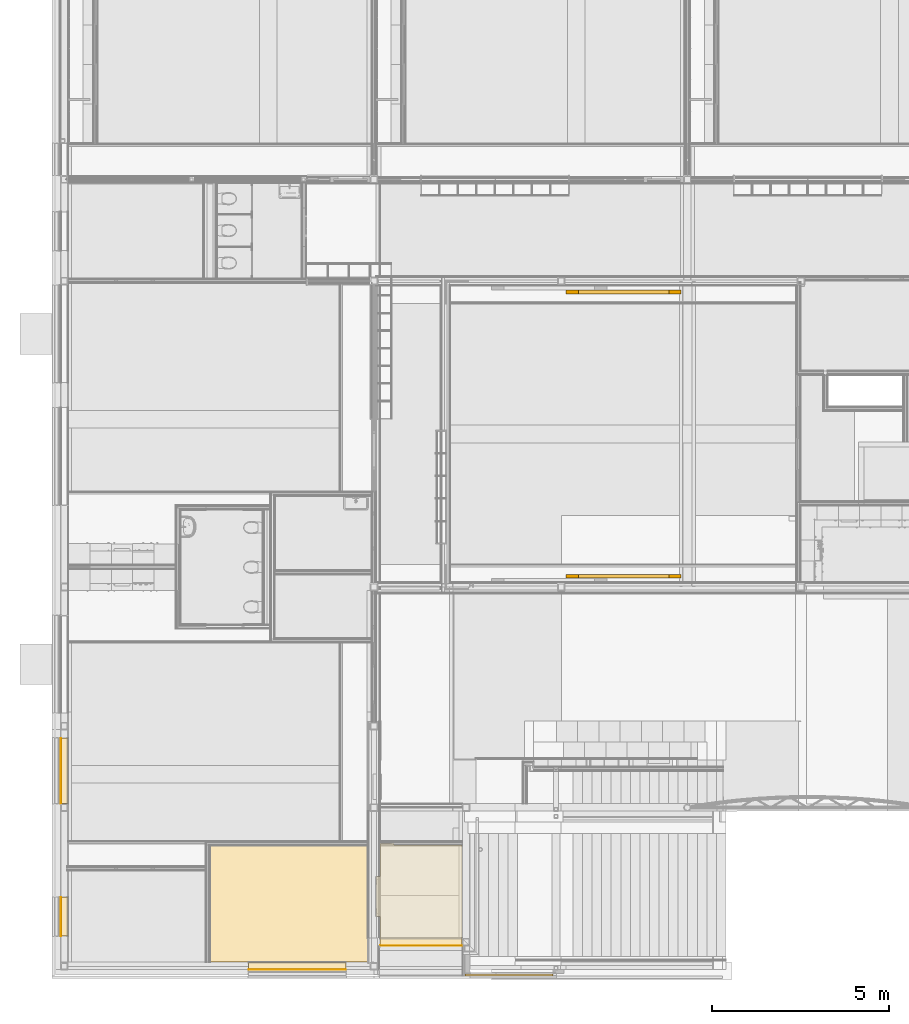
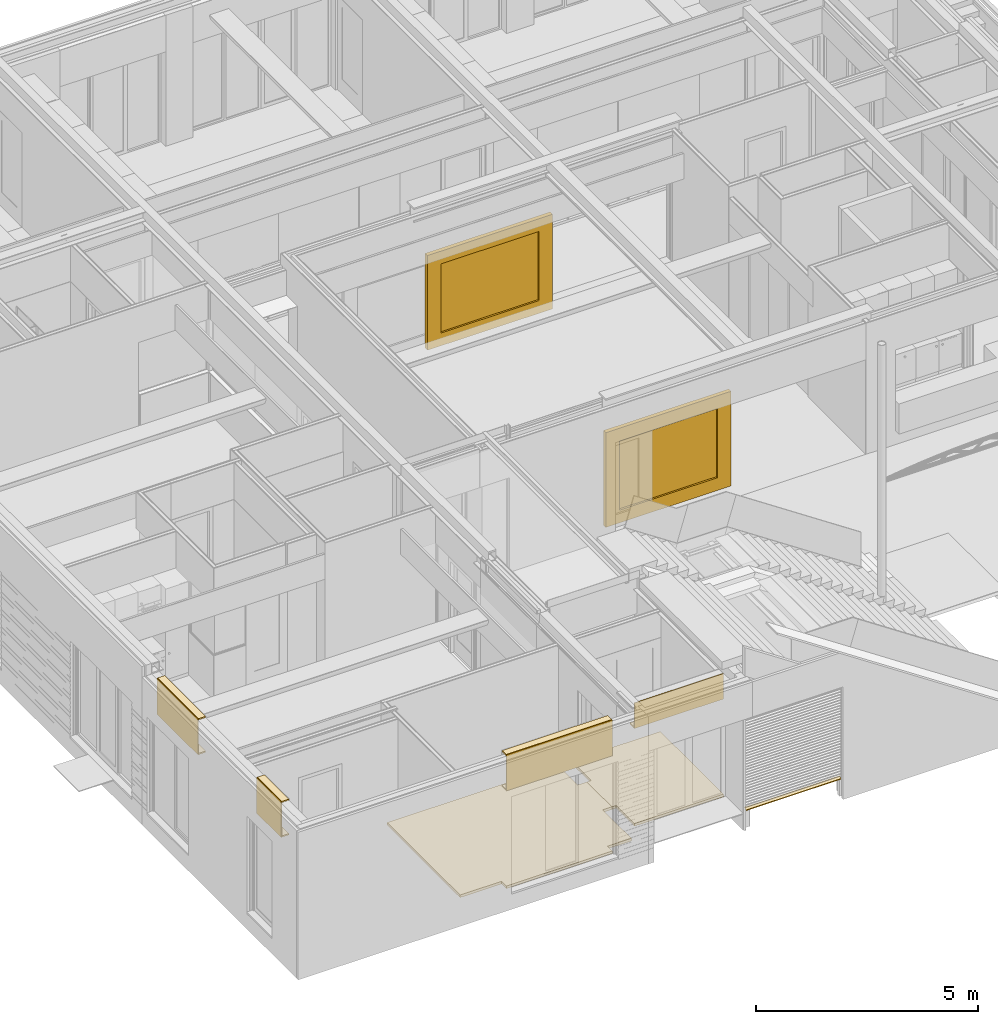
# One storey, part 101 of 165: 14 coverings, 2 doors, 7 elements without a shape of their own.
"""IFC2X3 building model written with IfcOpenShell, lengths in millimetres."""

from ifc_helpers import new_model, entity, si_unit, converted_unit, derived_unit, money_unit, direction, frame, origin_with_axes, place, context, subcontext, project, spatial, open_shell, faceted_brep, surface_model, material, type_object, element, aggregate, save


model = new_model("IFC2X3")

# Units and contexts
model_context = context("Model", 3, precision=0.01, world=origin_with_axes(), true_north=direction((0.0, 1.0)))
body_context = subcontext(model_context, "Body", "Model", "MODEL_VIEW")
ifc_project = project(units=[si_unit("LENGTHUNIT", "METRE", prefix="MILLI"), si_unit("AREAUNIT", "SQUARE_METRE"), si_unit("VOLUMEUNIT", "CUBIC_METRE"), converted_unit("PLANEANGLEUNIT", "DEGREE", entity("IfcPlaneAngleMeasure", 0.0174532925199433), si_unit("PLANEANGLEUNIT", "RADIAN"), dimensions=[0, 0, 0, 0, 0, 0, 0]), money_unit("EUR"), converted_unit("TIMEUNIT", "Year", entity("IfcTimeMeasure", 31556926.0), si_unit("TIMEUNIT", "SECOND"), dimensions=[0, 0, 1, 0, 0, 0, 0]), si_unit("MASSUNIT", "GRAM", prefix="KILO"), si_unit("THERMODYNAMICTEMPERATUREUNIT", "DEGREE_CELSIUS"), si_unit("LUMINOUSINTENSITYUNIT", "LUMEN"), si_unit("ENERGYUNIT", "JOULE", prefix="MEGA"), derived_unit("THERMALCONDUCTANCEUNIT", [(si_unit("POWERUNIT", "WATT"), 1), (si_unit("LENGTHUNIT", "METRE"), -1), (si_unit("THERMODYNAMICTEMPERATUREUNIT", "KELVIN"), -1)]), derived_unit("SPECIFICHEATCAPACITYUNIT", [(si_unit("ENERGYUNIT", "JOULE"), 1), (si_unit("MASSUNIT", "GRAM", prefix="KILO"), -1), (si_unit("THERMODYNAMICTEMPERATUREUNIT", "KELVIN"), -1)]), derived_unit("MASSDENSITYUNIT", [(si_unit("MASSUNIT", "GRAM", prefix="KILO"), 1), (si_unit("VOLUMEUNIT", "CUBIC_METRE"), -1)])], contexts=[model_context])

# Site, building, storey
site_placement = place(None, origin_with_axes())
site = spatial("IfcSite", under=ifc_project, at=site_placement, Name="Site", CompositionType="ELEMENT")
building_placement = place(site_placement, origin_with_axes())
building = spatial("IfcBuilding", under=site, at=building_placement, Name="Naam gebouw", CompositionType="ELEMENT")
storey_placement = place(building_placement, origin_with_axes())
storey = spatial("IfcBuildingStorey", under=building, at=storey_placement, Name="Begane grond", CompositionType="ELEMENT", Elevation=0.0)

# Doors
door_style_1 = type_object("IfcDoorStyle", Name="DS1 voor wand 26", ConstructionType="NOTDEFINED", OperationType="SLIDING_TO_RIGHT", ParameterTakesPrecedence=False, Sizeable=False)
door_1_placement = place(storey_placement, frame((20775.00168581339, 19325.00039292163, 0.0), z_axis=(0.0, 0.0, 1.0), x_axis=(-0.999999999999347, 1.142919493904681e-06, 0.0)))
element("IfcDoor", 1, at=door_1_placement, inside=storey, type_object=door_style_1, Name="_04.01", ObjectType="DOOR", OverallHeight=2600.0, OverallWidth=3250.0, context=body_context, shape_type="SurfaceModel", body=[
    faceted_brep([(6500.000000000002, 234.9999999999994, 350.0), (6500.000000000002, 129.999999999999, 350.0), (6150.0, 129.999999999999, 350.0), (6150.0, 234.9999999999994, 350.0), (6500.000000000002, 234.9999999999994, 2250.0), (6500.000000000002, 129.999999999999, 2250.0), (6150.0, 129.999999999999, 2250.0), (6150.0, 234.9999999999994, 2250.0)], [[[0, 1, 2, 3]], [[4, 5, 1, 0]], [[1, 5, 6, 2]], [[3, 2, 6, 7]], [[0, 3, 7, 4]], [[7, 6, 5, 4]]]),
    faceted_brep([(3250.0, 234.9999999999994, 350.0), (3250.0, 129.999999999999, 350.0), (3250.0, 129.999999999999, 2250.0), (3250.0, 234.9999999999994, 2250.0), (3600.000000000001, 234.9999999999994, 350.0), (3600.000000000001, 129.999999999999, 350.0), (3600.000000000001, 129.999999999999, 2250.0), (3600.000000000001, 234.9999999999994, 2250.0)], [[[0, 1, 2, 3]], [[4, 5, 1, 0]], [[1, 5, 6, 2]], [[3, 2, 6, 7]], [[0, 3, 7, 4]], [[7, 6, 5, 4]]]),
    faceted_brep([(6500.000000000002, 234.9999999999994, 0.0), (6500.000000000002, 129.999999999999, 0.0), (3250.0, 129.999999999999, 0.0), (3250.0, 234.9999999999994, 0.0), (6500.000000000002, 234.9999999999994, 350.0), (6500.000000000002, 129.999999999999, 350.0), (6150.0, 129.999999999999, 350.0), (3600.000000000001, 129.999999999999, 350.0), (3250.0, 129.999999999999, 350.0), (3250.0, 234.9999999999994, 350.0), (3600.000000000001, 234.9999999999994, 350.0), (6150.0, 234.9999999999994, 350.0)], [[[0, 1, 2, 3]], [[4, 5, 1, 0]], [[1, 5, 6, 7, 8, 2]], [[3, 2, 8, 9]], [[0, 3, 9, 10, 11, 4]], [[11, 6, 5, 4]], [[10, 7, 6, 11]], [[9, 8, 7, 10]]]),
    faceted_brep([(6500.000000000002, 234.9999999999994, 2600.0), (6500.000000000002, 129.999999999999, 2600.0), (6500.000000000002, 129.999999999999, 2250.0), (6500.000000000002, 234.9999999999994, 2250.0), (3250.0, 234.9999999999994, 2600.0), (3250.0, 129.999999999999, 2600.0), (3250.0, 129.999999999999, 2250.0), (3600.000000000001, 129.999999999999, 2250.0), (6150.0, 129.999999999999, 2250.0), (6150.0, 234.9999999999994, 2250.0), (3600.000000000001, 234.9999999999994, 2250.0), (3250.0, 234.9999999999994, 2250.0)], [[[0, 1, 2, 3]], [[4, 5, 1, 0]], [[1, 5, 6, 7, 8, 2]], [[3, 2, 8, 9]], [[0, 3, 9, 10, 11, 4]], [[11, 6, 5, 4]], [[10, 7, 6, 11]], [[9, 8, 7, 10]]]),
    surface_model("IfcShellBasedSurfaceModel", [(6150.0, 188.5000000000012, 350.0), (3600.000000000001, 188.5000000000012, 350.0), (3600.000000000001, 188.5000000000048, 2250.0), (6150.0, 188.5000000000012, 2250.0)], [open_shell([[[0, 1, 2, 3]]])]),
    surface_model("IfcShellBasedSurfaceModel", [(6150.0, 176.5000000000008, 350.0), (6150.0, 176.5000000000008, 2250.0), (3600.000000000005, 176.5000000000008, 2250.0), (3600.000000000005, 176.5000000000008, 350.0)], [open_shell([[[0, 1, 2, 3]]])]),
])
door_style_2 = type_object("IfcDoorStyle", Name="DS1 voor wand 26", ConstructionType="NOTDEFINED", OperationType="SLIDING_TO_LEFT", ParameterTakesPrecedence=False, Sizeable=False)
door_2_placement = place(storey_placement, frame((17525.00168581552, 10934.99510223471, 0.0), z_axis=(0.0, 0.0, 1.0), x_axis=(0.999999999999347, 1.142919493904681e-06, 0.0)))
element("IfcDoor", 2, at=door_2_placement, inside=storey, type_object=door_style_2, Name="_04.02", ObjectType="DOOR", OverallHeight=2600.0, OverallWidth=3250.0, context=body_context, shape_type="SurfaceModel", body=[
    faceted_brep([(-3250.000000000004, 234.9999999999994, 350.0), (-2900.000000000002, 234.9999999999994, 350.0), (-2900.000000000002, 130.0000000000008, 350.0), (-3250.000000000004, 130.0000000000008, 350.0), (-3250.000000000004, 234.9999999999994, 2250.0), (-2900.000000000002, 234.9999999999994, 2250.0), (-2900.000000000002, 130.0000000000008, 2250.0), (-3250.000000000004, 130.0000000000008, 2250.0)], [[[0, 1, 2, 3]], [[0, 4, 5, 1]], [[1, 5, 6, 2]], [[3, 2, 6, 7]], [[4, 0, 3, 7]], [[5, 4, 7, 6]]]),
    faceted_brep([(0.0, 234.9999999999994, 350.0), (0.0, 234.9999999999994, 2250.0), (0.0, 129.999999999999, 2250.0), (0.0, 130.0000000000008, 350.0), (-350.000000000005, 234.9999999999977, 350.0), (-350.000000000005, 234.9999999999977, 2250.0), (-350.000000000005, 129.999999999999, 2250.0), (-350.000000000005, 129.999999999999, 350.0)], [[[0, 1, 2, 3]], [[0, 4, 5, 1]], [[1, 5, 6, 2]], [[3, 2, 6, 7]], [[4, 0, 3, 7]], [[5, 4, 7, 6]]]),
    faceted_brep([(-3250.000000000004, 234.9999999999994, 0.0), (0.0, 234.9999999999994, 0.0), (0.0, 130.0000000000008, 0.0), (-3250.000000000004, 130.0000000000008, 0.0), (-3250.000000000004, 234.9999999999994, 350.0), (-2900.000000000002, 234.9999999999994, 350.0), (-350.000000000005, 234.9999999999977, 350.0), (0.0, 234.9999999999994, 350.0), (0.0, 130.0000000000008, 350.0), (-350.000000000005, 129.999999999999, 350.0), (-2900.000000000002, 130.0000000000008, 350.0), (-3250.000000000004, 130.0000000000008, 350.0)], [[[0, 1, 2, 3]], [[0, 4, 5, 6, 7, 1]], [[1, 7, 8, 2]], [[3, 2, 8, 9, 10, 11]], [[4, 0, 3, 11]], [[5, 4, 11, 10]], [[6, 5, 10, 9]], [[7, 6, 9, 8]]]),
    faceted_brep([(-3250.000000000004, 234.9999999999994, 2600.0), (-3250.000000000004, 234.9999999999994, 2250.0), (-3250.000000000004, 130.0000000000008, 2250.0), (-3250.000000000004, 130.0000000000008, 2600.0), (0.0, 234.9999999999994, 2600.0), (0.0, 234.9999999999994, 2250.0), (-350.000000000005, 234.9999999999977, 2250.0), (-2900.000000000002, 234.9999999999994, 2250.0), (-2900.000000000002, 130.0000000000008, 2250.0), (-350.000000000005, 129.999999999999, 2250.0), (0.0, 129.999999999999, 2250.0), (0.0, 129.999999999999, 2600.0)], [[[0, 1, 2, 3]], [[0, 4, 5, 6, 7, 1]], [[1, 7, 8, 2]], [[3, 2, 8, 9, 10, 11]], [[4, 0, 3, 11]], [[5, 4, 11, 10]], [[6, 5, 10, 9]], [[7, 6, 9, 8]]]),
    surface_model("IfcShellBasedSurfaceModel", [(-2900.000000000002, 188.5000000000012, 350.0), (-2900.000000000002, 188.4999999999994, 2250.0), (-350.0000000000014, 188.4999999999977, 2250.0), (-350.0000000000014, 188.4999999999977, 350.0)], [open_shell([[[0, 1, 2, 3]]])]),
    surface_model("IfcShellBasedSurfaceModel", [(-2900.000000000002, 176.5000000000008, 350.0), (-350.000000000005, 176.499999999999, 350.0), (-350.000000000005, 176.499999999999, 2250.0), (-2900.000000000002, 176.5000000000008, 2250.0)], [open_shell([[[0, 1, 2, 3]]])]),
])

# Slab, covering
slab_type = type_object("IfcSlabType", Name="43 Zwevende dekvloer 100", PredefinedType="NOTDEFINED")
slab_1_placement = place(storey_placement, frame((8675.000006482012, 3499.995697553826, 0.0), z_axis=(0.0, 0.0, 1.0), x_axis=(1.0, 0.0, 0.0)))
slab_1 = element("IfcSlab", 3, at=slab_1_placement, inside=storey, type_object=slab_type, Name="_Vloer-x", PredefinedType="NOTDEFINED")
ifc_material_1 = material(Name="Cement - dekvloer")
covering_1_placement = place(slab_1_placement, origin_with_axes())
covering_1 = element("IfcCovering", 4, at=covering_1_placement, material=ifc_material_1, Name="Cement - dekvloer", PredefinedType="FLOORING", context=body_context, shape_type="Brep", body=[
    faceted_brep([(-4450.000006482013, 0.0, -70.0), (-4450.000006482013, 0.0, 0.0), (0.0, 0.0, 0.0), (0.0, 0.0, -70.0), (-4450.000006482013, -3285.995698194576, -70.0), (-4450.000006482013, -3285.995698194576, 0.0), (-3369.000006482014, -3285.995698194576, 0.0), (-3369.000006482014, -3499.995697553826, 0.0), (-619.0000064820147, -3499.995697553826, 0.0), (-619.0000064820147, -3285.995698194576, 0.0), (0.0, -3285.995698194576, 0.0), (0.0, -1996.778544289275, 0.0), (237.9999935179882, -1996.778544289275, 0.0), (237.9999935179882, -866.7784783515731, 0.0), (0.0, -866.7784783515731, 0.0), (0.0, -866.7784783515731, -70.0), (237.9999935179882, -866.7784783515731, -70.0), (237.9999935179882, -1996.778544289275, -70.0), (0.0, -1996.778544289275, -70.0), (0.0, -3285.995698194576, -70.0), (-619.0000064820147, -3285.995698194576, -70.0), (-619.0000064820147, -3499.995697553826, -70.0), (-3369.000006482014, -3499.995697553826, -70.0), (-3369.000006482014, -3285.995698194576, -70.0)], [[[0, 1, 2, 3]], [[4, 5, 1, 0]], [[2, 1, 5, 6, 7, 8, 9, 10, 11, 12, 13, 14]], [[3, 2, 14, 15]], [[3, 15, 16, 17, 18, 19, 20, 21, 22, 23, 4, 0]], [[23, 6, 5, 4]], [[22, 7, 6, 23]], [[21, 8, 7, 22]], [[20, 9, 8, 21]], [[19, 10, 9, 20]], [[18, 11, 10, 19]], [[17, 12, 11, 18]], [[16, 13, 12, 17]], [[15, 14, 13, 16]]]),
])
aggregate(slab_1, [covering_1])

slab_2_placement = place(storey_placement, frame((9025.000021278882, 2633.217219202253, 0.0), z_axis=(0.0, 0.0, 1.0), x_axis=(1.0, 0.0, 0.0)))
slab_2 = element("IfcSlab", 5, at=slab_2_placement, inside=storey, type_object=slab_type, Name="_Vloer-x", PredefinedType="NOTDEFINED")
covering_2_placement = place(slab_2_placement, origin_with_axes())
covering_2 = element("IfcCovering", 6, at=covering_2_placement, material=ifc_material_1, Name="Cement - dekvloer", PredefinedType="FLOORING", context=body_context, shape_type="Brep", body=[
    faceted_brep([(-112.000021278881, 0.0, -70.0), (-112.000021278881, 0.0, 0.0), (0.0, 0.0, 0.0), (0.0, 0.0, -70.0), (-112.000021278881, -1130.000065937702, -70.0), (-112.000021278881, -1130.000065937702, 0.0), (0.0, -1130.000065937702, 0.0), (0.0, -1953.217247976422, 0.0), (2310.999978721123, -1953.217247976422, 0.0), (2310.999978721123, 886.778536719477, 0.0), (390.9999914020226, 886.778536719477, 0.0), (390.9999914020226, 931.7784826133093, 0.0), (0.0, 931.7784826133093, 0.0), (0.0, 931.7784826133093, -70.0), (390.9999914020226, 931.7784826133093, -70.0), (390.9999914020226, 886.778536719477, -70.0), (2310.999978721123, 886.778536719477, -70.0), (2310.999978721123, -1953.217247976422, -70.0), (0.0, -1953.217247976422, -70.0), (0.0, -1130.000065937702, -70.0)], [[[0, 1, 2, 3]], [[4, 5, 1, 0]], [[2, 1, 5, 6, 7, 8, 9, 10, 11, 12]], [[3, 2, 12, 13]], [[3, 13, 14, 15, 16, 17, 18, 19, 4, 0]], [[19, 6, 5, 4]], [[18, 7, 6, 19]], [[17, 8, 7, 18]], [[16, 9, 8, 17]], [[15, 10, 9, 16]], [[14, 11, 10, 15]], [[13, 12, 11, 14]]]),
])
aggregate(slab_2, [covering_2])

# Beam, covering
beam_type_1 = type_object("IfcBeamType", Name="30 Duco Louvre deur 55 x 2627", PredefinedType="BEAM")
beam_1_placement = place(storey_placement, frame((13900.0, -116.9904125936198, 0.0), z_axis=(0.0, 0.0, 1.0), x_axis=(0.0, 1.0, 0.0)))
beam_1 = element("IfcBeam", 7, at=beam_1_placement, inside=storey, type_object=beam_type_1, Name="_Regenwaterafvoer-x", ObjectType="BEAM")
ifc_material_2 = material(Name="Metaal - Aluminium")
covering_3_placement = place(beam_1_placement, origin_with_axes())
covering_3 = element("IfcCovering", 8, at=covering_3_placement, material=ifc_material_2, Name="Metaal - Aluminium", PredefinedType="NOTDEFINED", context=body_context, shape_type="Brep", body=[
    faceted_brep([(-4.027927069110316, 2473.999999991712, 83.69950189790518), (-56.57357643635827, 2473.999999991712, 46.90664211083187), (-56.57357643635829, 0.0, 46.90664211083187), (-4.027927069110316, 0.0, 83.69950189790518), (-3.90000000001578, 2473.999999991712, 83.9452475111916), (-3.90000000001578, 2473.999999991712, 99.12642859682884), (-3.975892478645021, 2473.999999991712, 99.32586735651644), (-4.165172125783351, 2473.999999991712, 99.42440010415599), (-4.372072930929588, 2473.999999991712, 99.37217421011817), (-5.427927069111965, 2473.999999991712, 98.63285718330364), (-5.634827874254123, 2473.999999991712, 98.58063128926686), (-5.824107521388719, 2473.999999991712, 98.67916403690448), (-5.900000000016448, 2473.999999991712, 98.87860279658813), (-5.900000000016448, 2473.999999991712, 100.4656097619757), (-5.772072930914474, 2473.999999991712, 100.7113553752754), (-2.944145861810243, 2473.999999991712, 102.6914912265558), (-2.530344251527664, 2473.999999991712, 102.7959430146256), (-2.151784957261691, 2473.999999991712, 102.5988775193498), (-2.000000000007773, 2473.999999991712, 102.1999999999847), (-2.000000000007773, 2473.999999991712, 83.3205670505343), (-2.426423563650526, 2473.999999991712, 82.50141500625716), (-26.08018232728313, 2473.999999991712, 65.93887481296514), (-26.40000000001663, 2473.999999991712, 65.32451077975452), (-26.40000000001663, 2473.999999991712, 62.12781745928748), (-26.61966991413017, 2473.999999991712, 61.59748737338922), (-28.05857864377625, 2473.999999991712, 60.15857864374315), (-28.20000000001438, 2473.999999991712, 60.09999999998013), (-28.3414213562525, 2473.999999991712, 60.15857864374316), (-28.40000000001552, 2473.999999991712, 60.29999999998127), (-28.40000000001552, 2473.999999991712, 62.87378439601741), (-28.58973119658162, 2473.999999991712, 63.37238129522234), (-29.06293031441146, 2473.999999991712, 63.61871316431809), (-29.58018232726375, 2473.999999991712, 63.48814842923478), (-30.60000000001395, 2473.999999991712, 62.77406440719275), (-30.60000000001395, 2473.999999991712, 57.59999999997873), (-30.74644660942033, 2473.999999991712, 57.24644660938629), (-31.10000000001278, 2473.999999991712, 57.0999999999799), (-32.10000000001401, 2473.999999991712, 57.0999999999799), (-32.45355339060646, 2473.999999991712, 57.24644660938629), (-32.60000000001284, 2473.999999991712, 57.59999999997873), (-32.60000000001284, 2473.999999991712, 59.93291273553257), (-32.78973119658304, 2473.999999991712, 60.4315096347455), (-33.26293031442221, 2473.999999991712, 60.67784150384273), (-33.780182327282, 2473.999999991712, 60.54727676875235), (-54.97207293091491, 2473.999999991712, 45.70855521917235), (-55.10000000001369, 2473.999999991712, 45.46280960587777), (-55.10000000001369, 2473.999999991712, 29.97357140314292), (-55.02410752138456, 2473.999999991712, 29.77413264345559), (-54.83482787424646, 2473.999999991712, 29.67559989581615), (-54.62792706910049, 2473.999999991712, 29.7278257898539), (-53.572072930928, 2473.999999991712, 30.46714281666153), (-53.36517212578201, 2473.999999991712, 30.51936871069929), (-53.17589247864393, 2473.999999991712, 30.42083596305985), (-53.1000000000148, 2473.999999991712, 30.22139720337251), (-53.1000000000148, 2473.999999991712, 28.6343902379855), (-53.22792706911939, 2473.999999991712, 28.38864462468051), (-56.05585413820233, 2473.999999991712, 26.40850877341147), (-56.46965574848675, 2473.999999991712, 26.30405698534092), (-56.84821504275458, 2473.999999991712, 26.50112248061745), (-57.00000000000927, 2473.999999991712, 26.89999999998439), (-57.00000000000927, 2473.999999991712, 46.08749006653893), (-57.00000000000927, 0.0, 46.08749006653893), (-57.00000000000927, 0.0, 26.89999999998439), (-56.84821504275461, 0.0, 26.50112248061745), (-56.46965574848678, 0.0, 26.30405698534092), (-56.05585413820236, 0.0, 26.40850877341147), (-53.22792706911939, 0.0, 28.38864462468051), (-53.1000000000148, 0.0, 28.6343902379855), (-53.1000000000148, 0.0, 30.22139720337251), (-53.17589247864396, 0.0, 30.42083596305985), (-53.36517212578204, 0.0, 30.51936871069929), (-53.572072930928, 0.0, 30.46714281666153), (-54.62792706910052, 0.0, 29.7278257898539), (-54.83482787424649, 0.0, 29.67559989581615), (-55.02410752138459, 0.0, 29.77413264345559), (-55.10000000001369, 0.0, 29.97357140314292), (-55.10000000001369, 0.0, 45.46280960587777), (-54.97207293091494, 0.0, 45.70855521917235), (-33.78018232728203, 0.0, 60.54727676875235), (-33.26293031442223, 0.0, 60.67784150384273), (-32.78973119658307, 0.0, 60.4315096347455), (-32.60000000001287, 0.0, 59.93291273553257), (-32.60000000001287, 0.0, 57.59999999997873), (-32.45355339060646, 0.0, 57.24644660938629), (-32.10000000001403, 0.0, 57.0999999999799), (-31.10000000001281, 0.0, 57.0999999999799), (-30.74644660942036, 0.0, 57.24644660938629), (-30.60000000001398, 0.0, 57.59999999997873), (-30.60000000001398, 0.0, 62.77406440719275), (-29.58018232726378, 0.0, 63.48814842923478), (-29.06293031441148, 0.0, 63.61871316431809), (-28.58973119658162, 0.0, 63.37238129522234), (-28.40000000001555, 0.0, 62.87378439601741), (-28.40000000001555, 0.0, 60.29999999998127), (-28.3414213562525, 0.0, 60.15857864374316), (-28.20000000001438, 0.0, 60.09999999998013), (-28.05857864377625, 0.0, 60.15857864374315), (-26.6196699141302, 0.0, 61.59748737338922), (-26.40000000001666, 0.0, 62.12781745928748), (-26.40000000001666, 0.0, 65.32451077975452), (-26.08018232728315, 0.0, 65.93887481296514), (-2.426423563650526, 0.0, 82.50141500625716), (-2.000000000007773, 0.0, 83.3205670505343), (-2.000000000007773, 0.0, 102.1999999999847), (-2.151784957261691, 0.0, 102.5988775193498), (-2.530344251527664, 0.0, 102.7959430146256), (-2.944145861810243, 0.0, 102.6914912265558), (-5.772072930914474, 0.0, 100.7113553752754), (-5.900000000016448, 0.0, 100.4656097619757), (-5.900000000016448, 0.0, 98.87860279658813), (-5.824107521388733, 0.0, 98.67916403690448), (-5.634827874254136, 0.0, 98.58063128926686), (-5.427927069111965, 0.0, 98.63285718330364), (-4.372072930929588, 0.0, 99.37217421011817), (-4.165172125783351, 0.0, 99.42440010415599), (-3.975892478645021, 0.0, 99.32586735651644), (-3.90000000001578, 0.0, 99.12642859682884), (-3.90000000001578, 0.0, 83.9452475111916)], [[[0, 1, 2, 3]], [[0, 4, 5, 6, 7, 8, 9, 10, 11, 12, 13, 14, 15, 16, 17, 18, 19, 20, 21, 22, 23, 24, 25, 26, 27, 28, 29, 30, 31, 32, 33, 34, 35, 36, 37, 38, 39, 40, 41, 42, 43, 44, 45, 46, 47, 48, 49, 50, 51, 52, 53, 54, 55, 56, 57, 58, 59, 60, 1]], [[1, 60, 61, 2]], [[3, 2, 61, 62, 63, 64, 65, 66, 67, 68, 69, 70, 71, 72, 73, 74, 75, 76, 77, 78, 79, 80, 81, 82, 83, 84, 85, 86, 87, 88, 89, 90, 91, 92, 93, 94, 95, 96, 97, 98, 99, 100, 101, 102, 103, 104, 105, 106, 107, 108, 109, 110, 111, 112, 113, 114, 115, 116, 117]], [[4, 0, 3, 117]], [[5, 4, 117, 116]], [[6, 5, 116, 115]], [[7, 6, 115, 114]], [[8, 7, 114, 113]], [[9, 8, 113, 112]], [[10, 9, 112, 111]], [[11, 10, 111, 110]], [[12, 11, 110, 109]], [[13, 12, 109, 108]], [[14, 13, 108, 107]], [[15, 14, 107, 106]], [[16, 15, 106, 105]], [[17, 16, 105, 104]], [[18, 17, 104, 103]], [[19, 18, 103, 102]], [[20, 19, 102, 101]], [[21, 20, 101, 100]], [[22, 21, 100, 99]], [[23, 22, 99, 98]], [[24, 23, 98, 97]], [[25, 24, 97, 96]], [[26, 25, 96, 95]], [[27, 26, 95, 94]], [[28, 27, 94, 93]], [[29, 28, 93, 92]], [[30, 29, 92, 91]], [[31, 30, 91, 90]], [[32, 31, 90, 89]], [[33, 32, 89, 88]], [[34, 33, 88, 87]], [[35, 34, 87, 86]], [[36, 35, 86, 85]], [[37, 36, 85, 84]], [[38, 37, 84, 83]], [[39, 38, 83, 82]], [[40, 39, 82, 81]], [[41, 40, 81, 80]], [[42, 41, 80, 79]], [[43, 42, 79, 78]], [[44, 43, 78, 77]], [[45, 44, 77, 76]], [[46, 45, 76, 75]], [[47, 46, 75, 74]], [[48, 47, 74, 73]], [[49, 48, 73, 72]], [[50, 49, 72, 71]], [[51, 50, 71, 70]], [[52, 51, 70, 69]], [[53, 52, 69, 68]], [[54, 53, 68, 67]], [[55, 54, 67, 66]], [[56, 55, 66, 65]], [[57, 56, 65, 64]], [[58, 57, 64, 63]], [[59, 58, 63, 62]], [[60, 59, 62, 61]]]),
])
aggregate(beam_1, [covering_3])

# Beam, coverings
beam_type_2 = type_object("IfcBeamType", Name="31 HSB boven kozijnen 214 x 1000", PredefinedType="BEAM")
beam_2_placement = place(storey_placement, frame((214.0000000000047, 6544.999999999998, 2600.000000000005), z_axis=(0.0, 0.0, 1.0), x_axis=(-1.0, 0.0, 0.0)))
beam_2 = element("IfcBeam", 9, at=beam_2_placement, inside=storey, type_object=beam_type_2, Name="28_Balk-x", ObjectType="BEAM")
ifc_material_3 = material(Name="Hout - Vloer")
covering_4_placement = place(beam_2_placement, origin_with_axes())
covering_4 = element("IfcCovering", 10, at=covering_4_placement, material=ifc_material_3, Name="Hout - Vloer", PredefinedType="NOTDEFINED", context=body_context, shape_type="Brep", body=[
    faceted_brep([(11.99999006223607, 1850.0, 999.9999999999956), (11.99999006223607, 1850.0, 962.0000059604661), (11.99999006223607, 0.0, 962.0000059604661), (11.99999006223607, 0.0, 999.9999999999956), (196.0000019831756, 1850.0, 999.9999999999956), (196.0000019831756, 1850.0, 961.9999910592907), (196.0000019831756, 0.0, 961.9999910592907), (196.0000019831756, 0.0, 999.9999999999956)], [[[0, 1, 2, 3]], [[0, 4, 5, 1]], [[1, 5, 6, 2]], [[3, 2, 6, 7]], [[4, 0, 3, 7]], [[5, 4, 7, 6]]]),
])
covering_5_placement = place(beam_2_placement, origin_with_axes())
covering_5 = element("IfcCovering", 11, at=covering_5_placement, material=ifc_material_3, Name="Hout - Vloer", PredefinedType="NOTDEFINED", context=body_context, shape_type="Brep", body=[
    faceted_brep([(11.99999638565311, 1850.0, 49.99999999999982), (11.99999638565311, 1850.0, 12.00000596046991), (11.99999638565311, 0.0, 12.00000596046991), (11.99999638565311, 0.0, 49.99999999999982), (196.0000083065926, 1850.0, 49.99999999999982), (196.0000083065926, 1850.0, 12.00000596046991), (196.0000083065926, 0.0, 12.00000596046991), (196.0000083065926, 0.0, 49.99999999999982)], [[[0, 1, 2, 3]], [[0, 4, 5, 1]], [[1, 5, 6, 2]], [[3, 2, 6, 7]], [[4, 0, 3, 7]], [[5, 4, 7, 6]]]),
])
ifc_material_4 = material(Name="Hout - Multiplex")
covering_6_placement = place(beam_2_placement, origin_with_axes())
covering_6 = element("IfcCovering", 12, at=covering_6_placement, material=ifc_material_4, Name="Hout - Multiplex", PredefinedType="NOTDEFINED", context=body_context, shape_type="Brep", body=[
    faceted_brep([(196.0000019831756, 1850.0, 999.9999999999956), (196.0000019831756, 1850.0, 11.99999999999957), (196.0000019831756, 0.0, 11.99999999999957), (196.0000019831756, 0.0, 999.9999999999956), (214.0000025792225, 1850.0, 999.9999999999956), (214.0000025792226, 1850.0, 11.99999999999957), (214.0000025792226, 0.0, 11.99999999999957), (214.0000025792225, 0.0, 999.9999999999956)], [[[0, 1, 2, 3]], [[0, 4, 5, 1]], [[1, 5, 6, 2]], [[3, 2, 6, 7]], [[4, 0, 3, 7]], [[5, 4, 7, 6]]]),
])
aggregate(beam_2, [covering_4, covering_5, covering_6])

beam_3_placement = place(storey_placement, frame((214.0000000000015, 2050.0, 2600.000000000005), z_axis=(0.0, 0.0, 1.0), x_axis=(-1.0, 0.0, 0.0)))
beam_3 = element("IfcBeam", 13, at=beam_3_placement, inside=storey, type_object=beam_type_2, Name="28_Balk-x", ObjectType="BEAM")
covering_7_placement = place(beam_3_placement, origin_with_axes())
covering_7 = element("IfcCovering", 14, at=covering_7_placement, material=ifc_material_3, Name="Hout - Vloer", PredefinedType="NOTDEFINED", context=body_context, shape_type="Brep", body=[
    faceted_brep([(11.99999638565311, 1100.0, 49.99999999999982), (11.99999638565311, 1100.0, 12.00000596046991), (11.99999638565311, 0.0, 12.00000596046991), (11.99999638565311, 0.0, 49.99999999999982), (196.0000083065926, 1100.0, 49.99999999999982), (196.0000083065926, 1100.0, 12.00000596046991), (196.0000083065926, 0.0, 12.00000596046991), (196.0000083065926, 0.0, 49.99999999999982)], [[[0, 1, 2, 3]], [[0, 4, 5, 1]], [[1, 5, 6, 2]], [[3, 2, 6, 7]], [[4, 0, 3, 7]], [[5, 4, 7, 6]]]),
])
covering_8_placement = place(beam_3_placement, origin_with_axes())
covering_8 = element("IfcCovering", 15, at=covering_8_placement, material=ifc_material_4, Name="Hout - Multiplex", PredefinedType="NOTDEFINED", context=body_context, shape_type="Brep", body=[
    faceted_brep([(196.0000019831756, 1100.0, 999.9999999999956), (196.0000019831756, 1100.0, 11.99999999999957), (196.0000019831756, 0.0, 11.99999999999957), (196.0000019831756, 0.0, 999.9999999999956), (214.0000025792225, 1100.0, 999.9999999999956), (214.0000025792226, 1100.0, 11.99999999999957), (214.0000025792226, 0.0, 11.99999999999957), (214.0000025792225, 0.0, 999.9999999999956)], [[[0, 1, 2, 3]], [[0, 4, 5, 1]], [[1, 5, 6, 2]], [[3, 2, 6, 7]], [[4, 0, 3, 7]], [[5, 4, 7, 6]]]),
])

# Beam, covering
beam_4_placement = place(storey_placement, frame((5305.999999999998, 214.0, 2600.000000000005), z_axis=(0.0, 0.0, 1.0), x_axis=(0.0, -1.0, 0.0)))
beam_4 = element("IfcBeam", 16, at=beam_4_placement, inside=storey, type_object=beam_type_2, Name="28_Balk-x", ObjectType="BEAM")
covering_9_placement = place(beam_4_placement, origin_with_axes())
covering_9 = element("IfcCovering", 17, at=covering_9_placement, material=ifc_material_3, Name="Hout - Vloer", PredefinedType="NOTDEFINED", context=body_context, shape_type="Brep", body=[
    faceted_brep([(11.9999900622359, 2749.999999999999, 999.9999999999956), (11.9999900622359, 2749.999999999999, 962.0000059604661), (11.99999006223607, 0.0, 962.0000059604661), (11.99999006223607, 0.0, 999.9999999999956), (196.0000019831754, 2749.999999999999, 999.9999999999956), (196.0000019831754, 2749.999999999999, 961.9999910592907), (196.0000019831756, 0.0, 961.9999910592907), (196.0000019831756, 0.0, 999.9999999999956)], [[[0, 1, 2, 3]], [[0, 4, 5, 1]], [[1, 5, 6, 2]], [[3, 2, 6, 7]], [[4, 0, 3, 7]], [[5, 4, 7, 6]]]),
])

# Covering
covering_10_placement = place(beam_3_placement, origin_with_axes())
covering_10 = element("IfcCovering", 18, at=covering_10_placement, material=ifc_material_3, Name="Hout - Vloer", PredefinedType="NOTDEFINED", context=body_context, shape_type="Brep", body=[
    faceted_brep([(11.99999006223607, 1100.0, 999.9999999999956), (11.99999006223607, 1100.0, 962.0000059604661), (11.99999006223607, 0.0, 962.0000059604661), (11.99999006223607, 0.0, 999.9999999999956), (196.0000019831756, 1100.0, 999.9999999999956), (196.0000019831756, 1100.0, 961.9999910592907), (196.0000019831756, 0.0, 961.9999910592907), (196.0000019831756, 0.0, 999.9999999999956)], [[[0, 1, 2, 3]], [[0, 4, 5, 1]], [[1, 5, 6, 2]], [[3, 2, 6, 7]], [[4, 0, 3, 7]], [[5, 4, 7, 6]]]),
])

aggregate(beam_3, [covering_7, covering_8, covering_10])

covering_11_placement = place(beam_4_placement, origin_with_axes())
covering_11 = element("IfcCovering", 19, at=covering_11_placement, material=ifc_material_3, Name="Hout - Vloer", PredefinedType="NOTDEFINED", context=body_context, shape_type="Brep", body=[
    faceted_brep([(11.99999638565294, 2749.999999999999, 49.99999999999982), (11.99999638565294, 2749.999999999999, 12.00000596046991), (11.99999638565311, 0.0, 12.00000596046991), (11.99999638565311, 0.0, 49.99999999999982), (196.0000083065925, 2749.999999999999, 49.99999999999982), (196.0000083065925, 2749.999999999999, 12.00000596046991), (196.0000083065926, 0.0, 12.00000596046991), (196.0000083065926, 0.0, 49.99999999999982)], [[[0, 1, 2, 3]], [[0, 4, 5, 1]], [[1, 5, 6, 2]], [[3, 2, 6, 7]], [[4, 0, 3, 7]], [[5, 4, 7, 6]]]),
])

covering_12_placement = place(beam_4_placement, origin_with_axes())
covering_12 = element("IfcCovering", 20, at=covering_12_placement, material=ifc_material_4, Name="Hout - Multiplex", PredefinedType="NOTDEFINED", context=body_context, shape_type="Brep", body=[
    faceted_brep([(196.0000019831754, 2749.999999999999, 999.9999999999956), (196.0000019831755, 2749.999999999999, 11.99999999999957), (196.0000019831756, 0.0, 11.99999999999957), (196.0000019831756, 0.0, 999.9999999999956), (214.0000025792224, 2749.999999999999, 999.9999999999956), (214.0000025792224, 2749.999999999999, 11.99999999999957), (214.0000025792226, 0.0, 11.99999999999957), (214.0000025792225, 0.0, 999.9999999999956)], [[[0, 1, 2, 3]], [[0, 4, 5, 1]], [[1, 5, 6, 2]], [[3, 2, 6, 7]], [[4, 0, 3, 7]], [[5, 4, 7, 6]]]),
])

aggregate(beam_4, [covering_9, covering_11, covering_12])

# Beam, coverings
beam_5_placement = place(storey_placement, frame((9025.0, 893.9999999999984, 2600.000000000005), z_axis=(0.0, 0.0, 1.0), x_axis=(0.0, -1.0, 0.0)))
beam_5 = element("IfcBeam", 21, at=beam_5_placement, inside=storey, type_object=beam_type_2, Name="28_Balk-x", ObjectType="BEAM")
covering_13_placement = place(beam_5_placement, origin_with_axes())
covering_13 = element("IfcCovering", 22, at=covering_13_placement, material=ifc_material_3, Name="Hout - Vloer", PredefinedType="NOTDEFINED", context=body_context, shape_type="Brep", body=[
    faceted_brep([(11.99999638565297, 2310.999999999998, 49.99999999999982), (11.99999638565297, 2310.999999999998, 12.00000596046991), (11.99999638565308, 0.0, 12.00000596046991), (11.99999638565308, 0.0, 49.99999999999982), (196.0000083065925, 2310.999999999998, 49.99999999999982), (196.0000083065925, 2310.999999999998, 12.00000596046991), (196.0000083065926, 0.0, 12.00000596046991), (196.0000083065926, 0.0, 49.99999999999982)], [[[0, 1, 2, 3]], [[0, 4, 5, 1]], [[1, 5, 6, 2]], [[3, 2, 6, 7]], [[4, 0, 3, 7]], [[5, 4, 7, 6]]]),
])
covering_14_placement = place(beam_5_placement, origin_with_axes())
covering_14 = element("IfcCovering", 23, at=covering_14_placement, material=ifc_material_4, Name="Hout - Multiplex", PredefinedType="NOTDEFINED", context=body_context, shape_type="Brep", body=[
    faceted_brep([(196.0000019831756, 0.0, 709.999999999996), (196.0000019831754, 2310.999999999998, 709.999999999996), (196.0000019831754, 2310.999999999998, 11.99999999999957), (196.0000019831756, 0.0, 11.99999999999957), (214.0000025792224, 2310.999999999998, 709.999999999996), (214.0000025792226, 0.0, 709.999999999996), (214.0000025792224, 2310.999999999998, 11.99999999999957), (214.0000025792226, 0.0, 11.99999999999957)], [[[0, 1, 2, 3]], [[4, 1, 0, 5]], [[1, 4, 6, 2]], [[3, 2, 6, 7]], [[5, 0, 3, 7]], [[4, 5, 7, 6]]]),
])
aggregate(beam_5, [covering_13, covering_14])

save(model, "model.ifc")
